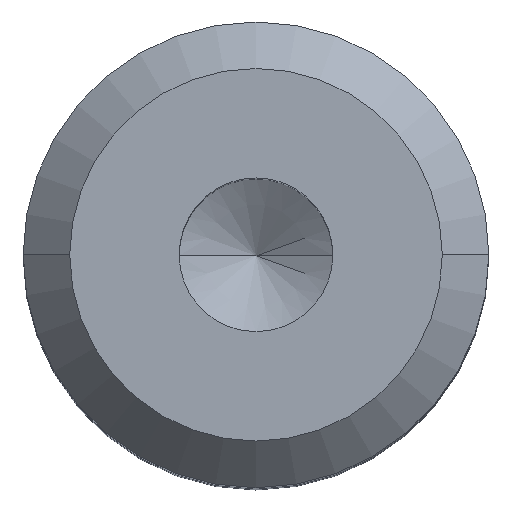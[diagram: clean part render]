
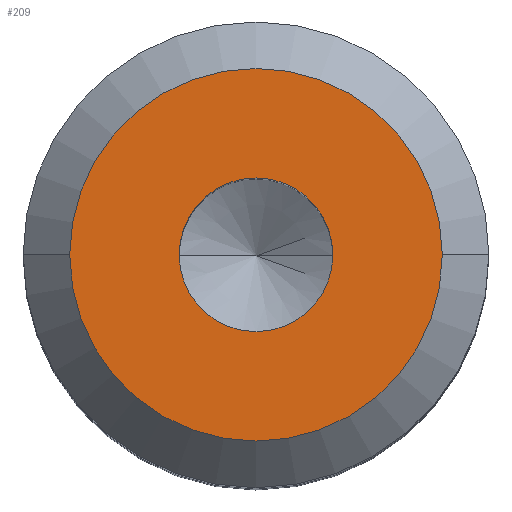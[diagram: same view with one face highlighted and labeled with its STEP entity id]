
A CAD part, top view. The second image highlights one B-rep face of the part: STEP entity #209.
In plain terms, the highlighted planar face has unit normal (0, 0, 1).
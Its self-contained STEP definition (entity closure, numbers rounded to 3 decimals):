
#3 = EDGE_CURVE ( 'NONE', #996, #482, #466, .T. ) ;
#10 = EDGE_LOOP ( 'NONE', ( #506, #11 ) ) ;
#11 = ORIENTED_EDGE ( 'NONE', *, *, #491, .F. ) ;
#15 = DIRECTION ( 'NONE',  ( 1., 0., 0. ) ) ;
#31 = PLANE ( 'NONE',  #516 ) ;
#41 = DIRECTION ( 'NONE',  ( 0., 0., -1. ) ) ;
#73 = DIRECTION ( 'NONE',  ( 1., 0., 0. ) ) ;
#84 = EDGE_LOOP ( 'NONE', ( #463, #968 ) ) ;
#110 = CARTESIAN_POINT ( 'NONE',  ( -5.2, -8.314, 15. ) ) ;
#122 = CARTESIAN_POINT ( 'NONE',  ( 0., 0., 15. ) ) ;
#152 = EDGE_CURVE ( 'NONE', #482, #996, #667, .T. ) ;
#209 = ADVANCED_FACE ( 'NONE', ( #373, #702 ), #31, .T. ) ;
#266 = CARTESIAN_POINT ( 'NONE',  ( 0., 0., 15. ) ) ;
#303 = DIRECTION ( 'NONE',  ( 0., 0., 1. ) ) ;
#328 = DIRECTION ( 'NONE',  ( 0., 0., 1. ) ) ;
#336 = DIRECTION ( 'NONE',  ( 0., 0., -1. ) ) ;
#361 = DIRECTION ( 'NONE',  ( 0., 0., 1. ) ) ;
#371 = CIRCLE ( 'NONE', #713, 4. ) ;
#373 = FACE_BOUND ( 'NONE', #84, .T. ) ;
#393 = VERTEX_POINT ( 'NONE', #594 ) ;
#463 = ORIENTED_EDGE ( 'NONE', *, *, #3, .F. ) ;
#466 = CIRCLE ( 'NONE', #940, 1.65 ) ;
#482 = VERTEX_POINT ( 'NONE', #498 ) ;
#491 = EDGE_CURVE ( 'NONE', #1012, #393, #371, .T. ) ;
#498 = CARTESIAN_POINT ( 'NONE',  ( -1.65, 0., 15. ) ) ;
#506 = ORIENTED_EDGE ( 'NONE', *, *, #695, .F. ) ;
#515 = CARTESIAN_POINT ( 'NONE',  ( 1.65, 0., 15. ) ) ;
#516 = AXIS2_PLACEMENT_3D ( 'NONE', #110, #328, #15 ) ;
#573 = CARTESIAN_POINT ( 'NONE',  ( 0., 0., 15. ) ) ;
#594 = CARTESIAN_POINT ( 'NONE',  ( 4., 0., 15. ) ) ;
#602 = CARTESIAN_POINT ( 'NONE',  ( -4., 0., 15. ) ) ;
#639 = CIRCLE ( 'NONE', #963, 4. ) ;
#667 = CIRCLE ( 'NONE', #779, 1.65 ) ;
#695 = EDGE_CURVE ( 'NONE', #393, #1012, #639, .T. ) ;
#702 = FACE_OUTER_BOUND ( 'NONE', #10, .T. ) ;
#713 = AXIS2_PLACEMENT_3D ( 'NONE', #573, #336, #876 ) ;
#743 = DIRECTION ( 'NONE',  ( 1., 0., 0. ) ) ;
#779 = AXIS2_PLACEMENT_3D ( 'NONE', #266, #361, #743 ) ;
#850 = CARTESIAN_POINT ( 'NONE',  ( 0., 0., 15. ) ) ;
#876 = DIRECTION ( 'NONE',  ( -1., 0., 0. ) ) ;
#898 = DIRECTION ( 'NONE',  ( -1., 0., 0. ) ) ;
#940 = AXIS2_PLACEMENT_3D ( 'NONE', #850, #303, #73 ) ;
#963 = AXIS2_PLACEMENT_3D ( 'NONE', #122, #41, #898 ) ;
#968 = ORIENTED_EDGE ( 'NONE', *, *, #152, .F. ) ;
#996 = VERTEX_POINT ( 'NONE', #515 ) ;
#1012 = VERTEX_POINT ( 'NONE', #602 ) ;
